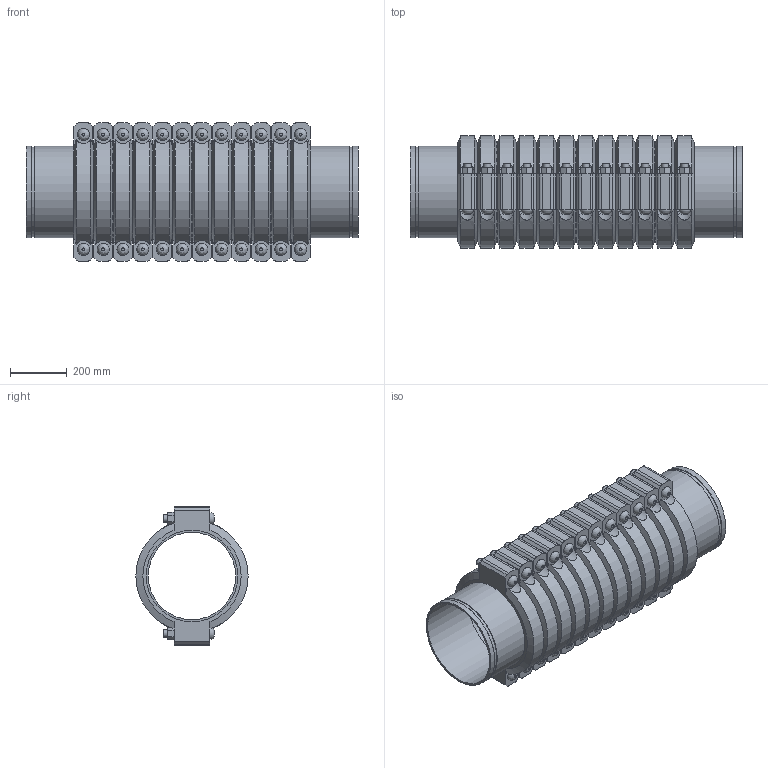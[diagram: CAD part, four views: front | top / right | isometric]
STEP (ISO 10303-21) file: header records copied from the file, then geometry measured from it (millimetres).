
FILE_DESCRIPTION(/* description */ ('VIC SS EXPANSION JOINT 12 COUPLINGS COMPRESSED STYLE 155P (OGS) (POTABLE WATER) ','CAx-IF Rec.Pracs.---Representation and Presentation of Product Manufacturing Information (PMI)---4.0---2014-10-13'),/* implementation_level */ '2;1');
FILE_NAME(/* name */ 'C:\Users\kkamble\AppData\Roaming\Autodesk\ApplicationPlugins\Victaulic.Temp\A528\Victaulic_SS_Expansion Joint_Compressed_12 Couplings_Style 155P (OGS)-Potable Water_12 Coup_Comp_12 (300).stp',/* time_stamp */ '2021-07-16T17:08:37+06:00',/* author */ ('kkamble'),/* organization */ ('Victaulic'),/* preprocessor_version */ 'ST-DEVELOPER v17.2',/* originating_system */ 'Autodesk Inventor 2019',/* authorisation */ '');
FILE_SCHEMA (('AP242_MANAGED_MODEL_BASED_3D_ENGINEERING_MIM_LF { 1 0 10303 442 1 1 4 }'));
Length unit declared in the file: inch
Products named in the file (4): 155P-12.0; Nipple-12.0; Nipple-12.0_1; 077-12.0
Assembly tree (25 placements, depth 2):
  155P-12.0
    Nipple-12.0  x2
    Nipple-12.0_1  x11
    077-12.0  x12
Bounding box: 1174.75 x 397 x 488.95 mm (x, y, z)
Volume: 48134546.1 mm3; surface area: 6396016.2 mm2
Topology: 25 solids, 49 shells, 840 faces, 2058 edges, 1440 vertices
Faces by surface type: plane 486, cylinder 282, cone 48, bspline 24
Full cylindrical faces by diameter (mm): 25.4 x48, 27.432 x24, 309.677 x13, 318.287 x26, 323.85 x51
Entity records: 3057 total; most frequent: CARTESIAN_POINT 659, DIRECTION 487, ORIENTED_EDGE 398, AXIS2_PLACEMENT_3D 200, EDGE_CURVE 199, VERTEX_POINT 142, EDGE_LOOP 105, CIRCLE 92
